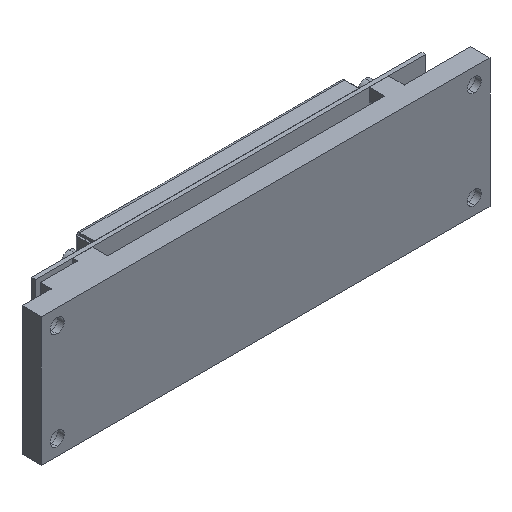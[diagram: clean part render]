
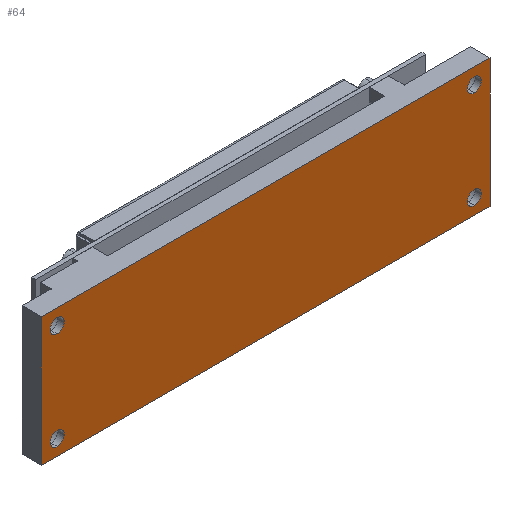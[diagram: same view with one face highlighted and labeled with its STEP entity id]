
A CAD part, isometric view. The second image highlights one B-rep face of the part: STEP entity #64.
In plain terms, the highlighted planar face has unit normal (0, -1, 0).
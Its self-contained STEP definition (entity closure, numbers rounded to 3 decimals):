
#64 = ADVANCED_FACE ( 'NONE', ( #46657, #14337, #77016, #32412, #60901 ), #21747, .T. ) ;
#1517 = ORIENTED_EDGE ( 'NONE', *, *, #29837, .F. ) ;
#2424 = EDGE_CURVE ( 'NONE', #63241, #7058, #15938, .T. ) ;
#2462 = VECTOR ( 'NONE', #17252, 1000. ) ;
#3013 = DIRECTION ( 'NONE',  ( 0., 0., 1. ) ) ;
#3024 = EDGE_CURVE ( 'NONE', #11295, #30918, #56096, .T. ) ;
#4362 = LINE ( 'NONE', #59751, #2462 ) ;
#6824 = ORIENTED_EDGE ( 'NONE', *, *, #2424, .T. ) ;
#7058 = VERTEX_POINT ( 'NONE', #54752 ) ;
#7216 = CIRCLE ( 'NONE', #58889, 1.8 ) ;
#8160 = EDGE_CURVE ( 'NONE', #7058, #63241, #26825, .T. ) ;
#8804 = VERTEX_POINT ( 'NONE', #24248 ) ;
#11295 = VERTEX_POINT ( 'NONE', #64407 ) ;
#12933 = EDGE_CURVE ( 'NONE', #70813, #62331, #15827, .T. ) ;
#13930 = VECTOR ( 'NONE', #67513, 1000. ) ;
#13952 = EDGE_LOOP ( 'NONE', ( #40916, #1517, #28755, #28774 ) ) ;
#14251 = CIRCLE ( 'NONE', #68174, 1.8 ) ;
#14337 = FACE_BOUND ( 'NONE', #44043, .T. ) ;
#14894 = CARTESIAN_POINT ( 'NONE',  ( -57.5, 0., -16.5 ) ) ;
#15827 = LINE ( 'NONE', #36986, #13930 ) ;
#15891 = CIRCLE ( 'NONE', #36195, 1.8 ) ;
#15938 = CIRCLE ( 'NONE', #16702, 1.8 ) ;
#16044 = CARTESIAN_POINT ( 'NONE',  ( -53.5, 0., 12.5 ) ) ;
#16702 = AXIS2_PLACEMENT_3D ( 'NONE', #18610, #54977, #48820 ) ;
#16712 = ORIENTED_EDGE ( 'NONE', *, *, #58296, .T. ) ;
#17252 = DIRECTION ( 'NONE',  ( 0., 0., -1. ) ) ;
#18607 = ORIENTED_EDGE ( 'NONE', *, *, #65173, .T. ) ;
#18610 = CARTESIAN_POINT ( 'NONE',  ( -53.5, 0., -12.5 ) ) ;
#19426 = EDGE_CURVE ( 'NONE', #30918, #11295, #15891, .T. ) ;
#19761 = DIRECTION ( 'NONE',  ( 0., 0., 1. ) ) ;
#21747 = PLANE ( 'NONE',  #41025 ) ;
#22234 = DIRECTION ( 'NONE',  ( 0., 0., 1. ) ) ;
#22247 = EDGE_LOOP ( 'NONE', ( #28574, #16712 ) ) ;
#22748 = CARTESIAN_POINT ( 'NONE',  ( 57.5, 0., -16.5 ) ) ;
#24248 = CARTESIAN_POINT ( 'NONE',  ( 53.5, 0., -10.7 ) ) ;
#25872 = CARTESIAN_POINT ( 'NONE',  ( -53.5, 0., 12.5 ) ) ;
#26319 = VECTOR ( 'NONE', #33235, 1000. ) ;
#26351 = VECTOR ( 'NONE', #63733, 1000. ) ;
#26825 = CIRCLE ( 'NONE', #31104, 1.8 ) ;
#28574 = ORIENTED_EDGE ( 'NONE', *, *, #68301, .T. ) ;
#28755 = ORIENTED_EDGE ( 'NONE', *, *, #41166, .F. ) ;
#28774 = ORIENTED_EDGE ( 'NONE', *, *, #12933, .F. ) ;
#29664 = CARTESIAN_POINT ( 'NONE',  ( -53.5, 0., -12.5 ) ) ;
#29713 = CARTESIAN_POINT ( 'NONE',  ( 53.5, 0., 12.5 ) ) ;
#29837 = EDGE_CURVE ( 'NONE', #57137, #64207, #60489, .T. ) ;
#30918 = VERTEX_POINT ( 'NONE', #45047 ) ;
#31104 = AXIS2_PLACEMENT_3D ( 'NONE', #29664, #72088, #35728 ) ;
#32412 = FACE_BOUND ( 'NONE', #78533, .T. ) ;
#32690 = VERTEX_POINT ( 'NONE', #43123 ) ;
#33235 = DIRECTION ( 'NONE',  ( -1., 0., 0. ) ) ;
#33572 = DIRECTION ( 'NONE',  ( 0., 1., 0. ) ) ;
#34399 = DIRECTION ( 'NONE',  ( 0., 1., 0. ) ) ;
#35499 = CARTESIAN_POINT ( 'NONE',  ( 0., 0., 0. ) ) ;
#35728 = DIRECTION ( 'NONE',  ( 0., 0., 1. ) ) ;
#35795 = DIRECTION ( 'NONE',  ( 0., 0., 1. ) ) ;
#36195 = AXIS2_PLACEMENT_3D ( 'NONE', #16044, #58566, #22234 ) ;
#36986 = CARTESIAN_POINT ( 'NONE',  ( -57.5, 0., 16.5 ) ) ;
#39325 = DIRECTION ( 'NONE',  ( 0., 1., 0. ) ) ;
#39456 = VERTEX_POINT ( 'NONE', #49005 ) ;
#39998 = CARTESIAN_POINT ( 'NONE',  ( -57.5, 0., -16.5 ) ) ;
#40916 = ORIENTED_EDGE ( 'NONE', *, *, #70637, .F. ) ;
#41025 = AXIS2_PLACEMENT_3D ( 'NONE', #35499, #46233, #62354 ) ;
#41166 = EDGE_CURVE ( 'NONE', #62331, #57137, #4362, .T. ) ;
#42184 = AXIS2_PLACEMENT_3D ( 'NONE', #25872, #62209, #19761 ) ;
#43123 = CARTESIAN_POINT ( 'NONE',  ( 53.5, 0., 10.7 ) ) ;
#44043 = EDGE_LOOP ( 'NONE', ( #47122, #59072 ) ) ;
#44592 = VERTEX_POINT ( 'NONE', #55557 ) ;
#45047 = CARTESIAN_POINT ( 'NONE',  ( -53.5, 0., 10.7 ) ) ;
#46233 = DIRECTION ( 'NONE',  ( 0., -1., 0. ) ) ;
#46657 = FACE_BOUND ( 'NONE', #61910, .T. ) ;
#46680 = AXIS2_PLACEMENT_3D ( 'NONE', #75678, #39325, #3013 ) ;
#47122 = ORIENTED_EDGE ( 'NONE', *, *, #3024, .T. ) ;
#48820 = DIRECTION ( 'NONE',  ( 0., 0., 1. ) ) ;
#49005 = CARTESIAN_POINT ( 'NONE',  ( 53.5, 0., 14.3 ) ) ;
#50173 = ORIENTED_EDGE ( 'NONE', *, *, #8160, .T. ) ;
#50923 = CARTESIAN_POINT ( 'NONE',  ( 57.5, 0., 16.5 ) ) ;
#52804 = CARTESIAN_POINT ( 'NONE',  ( -57.5, 0., 16.5 ) ) ;
#54752 = CARTESIAN_POINT ( 'NONE',  ( -53.5, 0., -14.3 ) ) ;
#54820 = EDGE_CURVE ( 'NONE', #8804, #44592, #7216, .T. ) ;
#54977 = DIRECTION ( 'NONE',  ( 0., 1., 0. ) ) ;
#55557 = CARTESIAN_POINT ( 'NONE',  ( 53.5, 0., -14.3 ) ) ;
#56096 = CIRCLE ( 'NONE', #42184, 1.8 ) ;
#57137 = VERTEX_POINT ( 'NONE', #22748 ) ;
#57644 = CARTESIAN_POINT ( 'NONE',  ( -57.5, 0., 16.5 ) ) ;
#58296 = EDGE_CURVE ( 'NONE', #32690, #39456, #71665, .T. ) ;
#58566 = DIRECTION ( 'NONE',  ( 0., 1., 0. ) ) ;
#58889 = AXIS2_PLACEMENT_3D ( 'NONE', #69934, #33572, #76037 ) ;
#59072 = ORIENTED_EDGE ( 'NONE', *, *, #19426, .T. ) ;
#59751 = CARTESIAN_POINT ( 'NONE',  ( 57.5, 0., 16.5 ) ) ;
#60489 = LINE ( 'NONE', #14894, #26319 ) ;
#60901 = FACE_OUTER_BOUND ( 'NONE', #13952, .T. ) ;
#61910 = EDGE_LOOP ( 'NONE', ( #6824, #50173 ) ) ;
#62209 = DIRECTION ( 'NONE',  ( 0., 1., 0. ) ) ;
#62331 = VERTEX_POINT ( 'NONE', #50923 ) ;
#62354 = DIRECTION ( 'NONE',  ( 0., 0., -1. ) ) ;
#63241 = VERTEX_POINT ( 'NONE', #72540 ) ;
#63733 = DIRECTION ( 'NONE',  ( 0., 0., 1. ) ) ;
#64207 = VERTEX_POINT ( 'NONE', #39998 ) ;
#64407 = CARTESIAN_POINT ( 'NONE',  ( -53.5, 0., 14.3 ) ) ;
#65173 = EDGE_CURVE ( 'NONE', #44592, #8804, #75074, .T. ) ;
#66637 = AXIS2_PLACEMENT_3D ( 'NONE', #29713, #72157, #35795 ) ;
#67513 = DIRECTION ( 'NONE',  ( 1., 0., 0. ) ) ;
#68174 = AXIS2_PLACEMENT_3D ( 'NONE', #70778, #34399, #76847 ) ;
#68301 = EDGE_CURVE ( 'NONE', #39456, #32690, #14251, .T. ) ;
#69934 = CARTESIAN_POINT ( 'NONE',  ( 53.5, 0., -12.5 ) ) ;
#70637 = EDGE_CURVE ( 'NONE', #64207, #70813, #74749, .T. ) ;
#70778 = CARTESIAN_POINT ( 'NONE',  ( 53.5, 0., 12.5 ) ) ;
#70813 = VERTEX_POINT ( 'NONE', #52804 ) ;
#71665 = CIRCLE ( 'NONE', #66637, 1.8 ) ;
#72088 = DIRECTION ( 'NONE',  ( 0., 1., 0. ) ) ;
#72157 = DIRECTION ( 'NONE',  ( 0., 1., 0. ) ) ;
#72540 = CARTESIAN_POINT ( 'NONE',  ( -53.5, 0., -10.7 ) ) ;
#74749 = LINE ( 'NONE', #57644, #26351 ) ;
#75072 = ORIENTED_EDGE ( 'NONE', *, *, #54820, .T. ) ;
#75074 = CIRCLE ( 'NONE', #46680, 1.8 ) ;
#75678 = CARTESIAN_POINT ( 'NONE',  ( 53.5, 0., -12.5 ) ) ;
#76037 = DIRECTION ( 'NONE',  ( 0., 0., 1. ) ) ;
#76847 = DIRECTION ( 'NONE',  ( 0., 0., 1. ) ) ;
#77016 = FACE_BOUND ( 'NONE', #22247, .T. ) ;
#78533 = EDGE_LOOP ( 'NONE', ( #75072, #18607 ) ) ;
